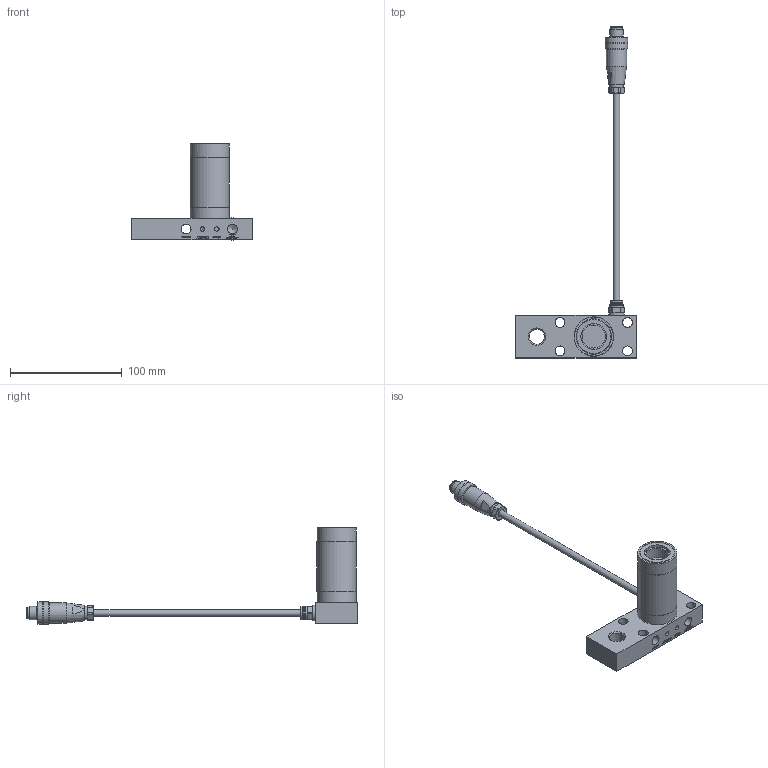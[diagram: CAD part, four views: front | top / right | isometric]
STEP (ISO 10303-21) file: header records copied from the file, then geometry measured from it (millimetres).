
FILE_DESCRIPTION(/* description */ ('0000822154.ipt'),/* implementation_level */ '2;1');
FILE_NAME(/* name */ 'C:\PTC\WGM\WFS\Windchill\Workspace\VF,LVDT,SXHR3,TL,S,NHP,N,CUSTOMER.stp',/* time_stamp */ '2015-06-15T13:53:46-04:00',/* author */ ('Simon.Britton'),/* organization */ (''),/* preprocessor_version */ 'ST-DEVELOPER v15.2',/* originating_system */ 'Autodesk Inventor 2014',/* authorisation */ '');
FILE_SCHEMA (('AUTOMOTIVE_DESIGN { 1 0 10303 214 3 1 1 }'));
Length unit declared in the file: millimetre
Products named in the file (5): ASSEMBLY,BODY,NUTWELD,VFSXHR3,NID; FITTING,BRASS,STR,1_8WORLD,6MMPOLY; TUBE,PLASTIC,CLEAR,4MMIDX6MMOD_0000473953.ipt ; CONNECTOR,  MALE, STR, 5-POS,  M12_0000523820; VF,LVDT,SXHR3,TL,S,NHP,N,CUSTOMER
Bounding box: 107.95 x 296.5 x 86.21 mm (x, y, z)
Volume: 128223.1 mm3; surface area: 55015.1 mm2
Topology: 4 solids, 4 shells, 1068 faces, 2781 edges, 1846 vertices
Faces by surface type: plane 707, bspline 240, cylinder 88, cone 28, sphere 5
Full cylindrical faces by diameter (mm): 0.217 x1, 1 x5, 3 x1, 3.962 x4, 4 x1, 6 x2, 7 x1, 7.2 x1, 7.782 x1, 8.3 x1, 8.731 x4, 8.738 x4, 9.728 x1, 10 x1, 10.2 x1, 10.5 x1, 11.52 x1, 12 x3, 13.487 x1, 14 x1, 16 x1, 18 x1, 20 x1, 20.05 x1, 20.637 x2, 23.019 x1, 28.829 x3, 31.496 x4, 31.623 x1, 34.925 x2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
Entity records: 34731 total; most frequent: CARTESIAN_POINT 9365, ORIENTED_EDGE 5328, DIRECTION 4060, EDGE_CURVE 2664, LINE 1950, VECTOR 1950, VERTEX_POINT 1810, EDGE_LOOP 1290
